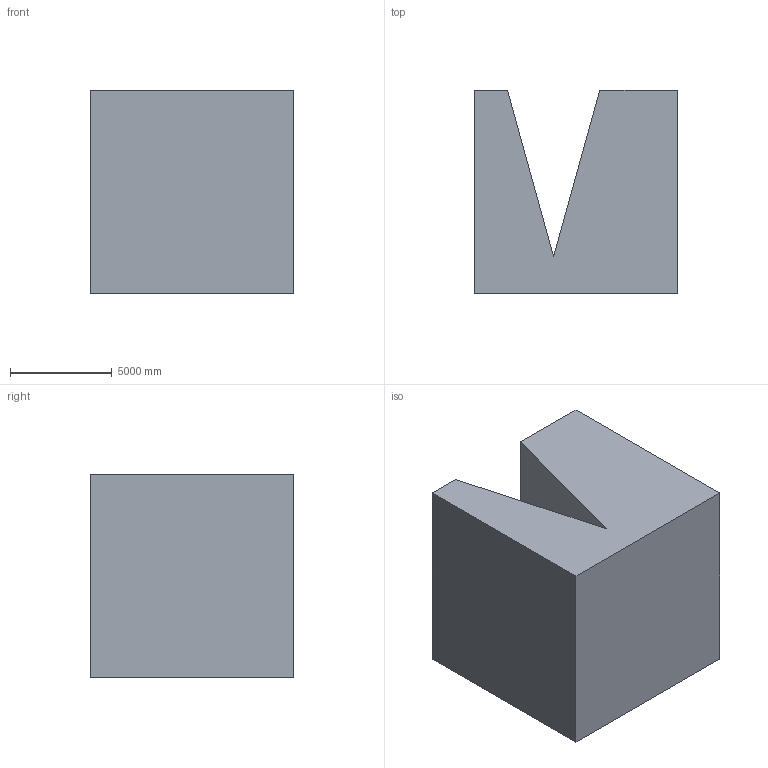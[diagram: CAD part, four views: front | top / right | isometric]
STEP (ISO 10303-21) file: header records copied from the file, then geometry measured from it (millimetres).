
FILE_DESCRIPTION (( 'STEP AP203' ), '1' );
FILE_NAME ('5.STEP', '2022-07-28T13:23:11', ( 'user' ), ( '' ), 'SwSTEP 2.0', 'SolidWorks 2021', '' );
FILE_SCHEMA (( 'CONFIG_CONTROL_DESIGN' ));
Length unit declared in the file: centimetre
Products named in the file (1): 5
Bounding box: 10000 x 10000 x 10000 mm (x, y, z)
Volume: 767017033125.1 mm3; surface area: 766942256.6 mm2
Topology: 1 solids, 1 shells, 15 faces, 33 edges, 22 vertices
Faces by surface type: plane 11, cylinder 4
Entity records: 492 total; most frequent: DIRECTION 73, CARTESIAN_POINT 71, ORIENTED_EDGE 66, EDGE_CURVE 33, LINE 25, VECTOR 25, AXIS2_PLACEMENT_3D 24, VERTEX_POINT 22
